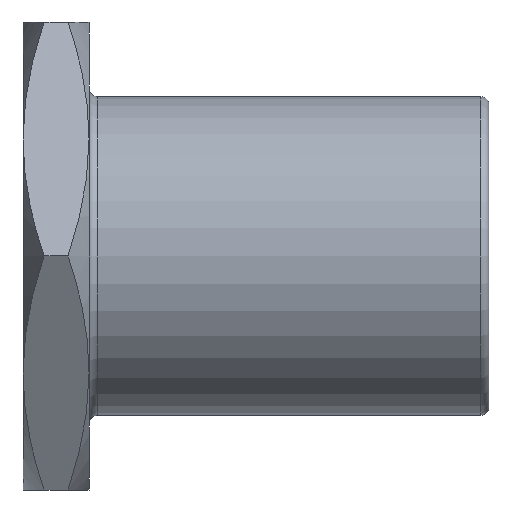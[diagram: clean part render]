
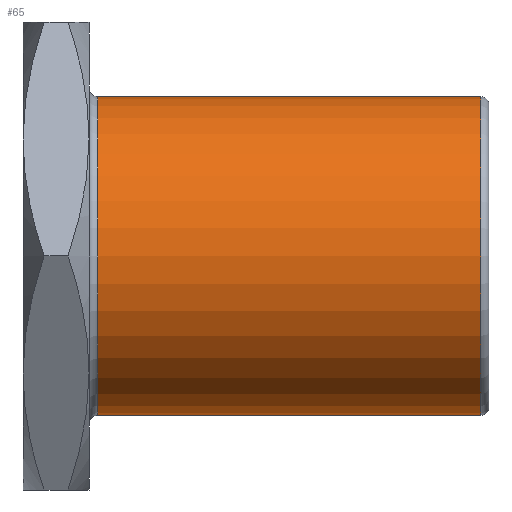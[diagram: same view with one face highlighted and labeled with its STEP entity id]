
A CAD part, front view. The second image highlights one B-rep face of the part: STEP entity #65.
In plain terms, the highlighted cylindrical face has radius 7.495 mm (diameter 14.99 mm), a full revolution.
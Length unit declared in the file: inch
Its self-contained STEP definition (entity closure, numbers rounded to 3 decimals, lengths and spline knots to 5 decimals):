
#65 = ADVANCED_FACE( '', ( #146, #147 ), #148, .T. );
#146 = FACE_OUTER_BOUND( '', #243, .T. );
#147 = FACE_OUTER_BOUND( '', #244, .T. );
#148 = CYLINDRICAL_SURFACE( '', #245, 0.29508 );
#243 = EDGE_LOOP( '', ( #370 ) );
#244 = EDGE_LOOP( '', ( #371 ) );
#245 = AXIS2_PLACEMENT_3D( '', #372, #373, #374 );
#370 = ORIENTED_EDGE( '', *, *, #552, .F. );
#371 = ORIENTED_EDGE( '', *, *, #553, .T. );
#372 = CARTESIAN_POINT( '', ( 0.8622, 0., 0. ) );
#373 = DIRECTION( '', ( -1., 0., 0. ) );
#374 = DIRECTION( '', ( 0., 0., -1. ) );
#552 = EDGE_CURVE( '', #651, #651, #652, .T. );
#553 = EDGE_CURVE( '', #653, #653, #654, .T. );
#651 = VERTEX_POINT( '', #844 );
#652 = CIRCLE( '', #845, 0.29508 );
#653 = VERTEX_POINT( '', #846 );
#654 = CIRCLE( '', #847, 0.29508 );
#844 = CARTESIAN_POINT( '', ( 0.8472, 0., -0.29508 ) );
#845 = AXIS2_PLACEMENT_3D( '', #994, #995, #996 );
#846 = CARTESIAN_POINT( '', ( 0.13805, 0., -0.29508 ) );
#847 = AXIS2_PLACEMENT_3D( '', #997, #998, #999 );
#994 = CARTESIAN_POINT( '', ( 0.8472, 0., 0. ) );
#995 = DIRECTION( '', ( 1., 0., 0. ) );
#996 = DIRECTION( '', ( 0., 0., -1. ) );
#997 = CARTESIAN_POINT( '', ( 0.13805, 0., 0. ) );
#998 = DIRECTION( '', ( 1., 0., 0. ) );
#999 = DIRECTION( '', ( 0., 0., -1. ) );
